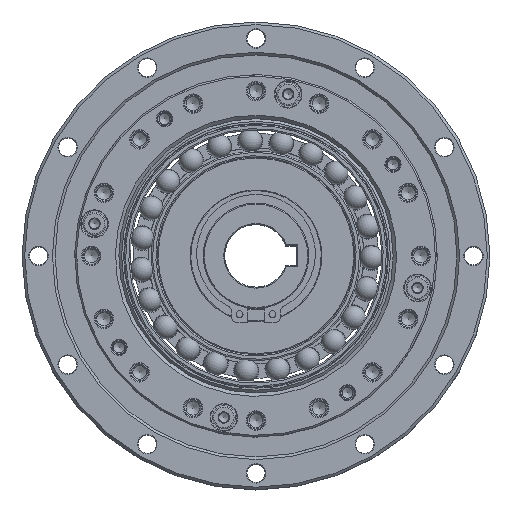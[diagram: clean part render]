
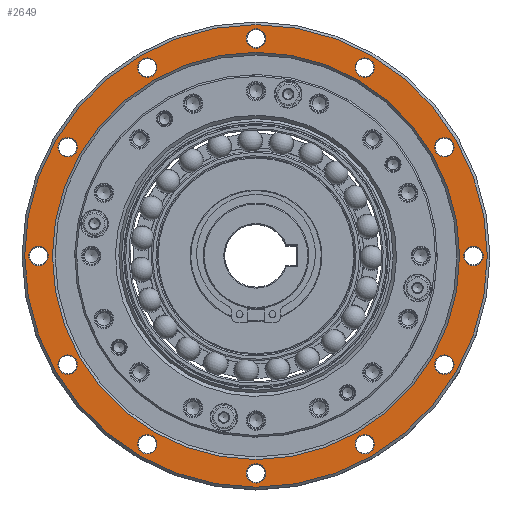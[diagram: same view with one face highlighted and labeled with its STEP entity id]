
A CAD part, top view. The second image highlights one B-rep face of the part: STEP entity #2649.
In plain terms, the highlighted planar face has unit normal (0, 0, 1).
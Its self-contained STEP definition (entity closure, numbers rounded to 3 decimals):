
#2649=ADVANCED_FACE('',(#3803,#3804,#3805,#3806,#3807,#3808,#3809,#3810,
#3811,#3812,#3813,#3814,#3815,#3816),#3348,.T.);
#3348=PLANE('',#12291);
#3803=FACE_BOUND('',#4844,.T.);
#3804=FACE_BOUND('',#4845,.T.);
#3805=FACE_BOUND('',#4846,.T.);
#3806=FACE_BOUND('',#4847,.T.);
#3807=FACE_BOUND('',#4848,.T.);
#3808=FACE_BOUND('',#4849,.T.);
#3809=FACE_BOUND('',#4850,.T.);
#3810=FACE_BOUND('',#4851,.T.);
#3811=FACE_BOUND('',#4852,.T.);
#3812=FACE_BOUND('',#4853,.T.);
#3813=FACE_BOUND('',#4854,.T.);
#3814=FACE_BOUND('',#4855,.T.);
#3815=FACE_BOUND('',#4856,.T.);
#3816=FACE_BOUND('',#4857,.T.);
#4844=EDGE_LOOP('',(#6172));
#4845=EDGE_LOOP('',(#6173));
#4846=EDGE_LOOP('',(#6174));
#4847=EDGE_LOOP('',(#6175));
#4848=EDGE_LOOP('',(#6176));
#4849=EDGE_LOOP('',(#6177));
#4850=EDGE_LOOP('',(#6178));
#4851=EDGE_LOOP('',(#6179));
#4852=EDGE_LOOP('',(#6180));
#4853=EDGE_LOOP('',(#6181));
#4854=EDGE_LOOP('',(#6182));
#4855=EDGE_LOOP('',(#6183));
#4856=EDGE_LOOP('',(#6184));
#4857=EDGE_LOOP('',(#6185));
#6172=ORIENTED_EDGE('',*,*,#9944,.T.);
#6173=ORIENTED_EDGE('',*,*,#9945,.T.);
#6174=ORIENTED_EDGE('',*,*,#9946,.T.);
#6175=ORIENTED_EDGE('',*,*,#9947,.T.);
#6176=ORIENTED_EDGE('',*,*,#9948,.T.);
#6177=ORIENTED_EDGE('',*,*,#9949,.T.);
#6178=ORIENTED_EDGE('',*,*,#9950,.T.);
#6179=ORIENTED_EDGE('',*,*,#9951,.T.);
#6180=ORIENTED_EDGE('',*,*,#9952,.T.);
#6181=ORIENTED_EDGE('',*,*,#9953,.T.);
#6182=ORIENTED_EDGE('',*,*,#9954,.T.);
#6183=ORIENTED_EDGE('',*,*,#9955,.T.);
#6184=ORIENTED_EDGE('',*,*,#9956,.T.);
#6185=ORIENTED_EDGE('',*,*,#9943,.F.);
#8849=VERTEX_POINT('',#17795);
#8850=VERTEX_POINT('',#17798);
#8851=VERTEX_POINT('',#17800);
#8852=VERTEX_POINT('',#17802);
#8853=VERTEX_POINT('',#17804);
#8854=VERTEX_POINT('',#17806);
#8855=VERTEX_POINT('',#17808);
#8856=VERTEX_POINT('',#17810);
#8857=VERTEX_POINT('',#17812);
#8858=VERTEX_POINT('',#17814);
#8859=VERTEX_POINT('',#17816);
#8860=VERTEX_POINT('',#17818);
#8861=VERTEX_POINT('',#17820);
#8862=VERTEX_POINT('',#17822);
#9943=EDGE_CURVE('',#8849,#8849,#11322,.T.);
#9944=EDGE_CURVE('',#8850,#8850,#11323,.T.);
#9945=EDGE_CURVE('',#8851,#8851,#11324,.T.);
#9946=EDGE_CURVE('',#8852,#8852,#11325,.T.);
#9947=EDGE_CURVE('',#8853,#8853,#11326,.T.);
#9948=EDGE_CURVE('',#8854,#8854,#11327,.T.);
#9949=EDGE_CURVE('',#8855,#8855,#11328,.T.);
#9950=EDGE_CURVE('',#8856,#8856,#11329,.T.);
#9951=EDGE_CURVE('',#8857,#8857,#11330,.T.);
#9952=EDGE_CURVE('',#8858,#8858,#11331,.T.);
#9953=EDGE_CURVE('',#8859,#8859,#11332,.T.);
#9954=EDGE_CURVE('',#8860,#8860,#11333,.T.);
#9955=EDGE_CURVE('',#8861,#8861,#11334,.T.);
#9956=EDGE_CURVE('',#8862,#8862,#11335,.T.);
#11322=CIRCLE('',#12276,70.2);
#11323=CIRCLE('',#12278,2.95);
#11324=CIRCLE('',#12279,2.95);
#11325=CIRCLE('',#12280,2.95);
#11326=CIRCLE('',#12281,2.95);
#11327=CIRCLE('',#12282,2.95);
#11328=CIRCLE('',#12283,2.95);
#11329=CIRCLE('',#12284,2.95);
#11330=CIRCLE('',#12285,2.95);
#11331=CIRCLE('',#12286,2.95);
#11332=CIRCLE('',#12287,2.95);
#11333=CIRCLE('',#12288,2.95);
#11334=CIRCLE('',#12289,2.95);
#11335=CIRCLE('',#12290,61.8);
#12276=AXIS2_PLACEMENT_3D('',#17794,#14154,#14155);
#12278=AXIS2_PLACEMENT_3D('',#17797,#14158,#14159);
#12279=AXIS2_PLACEMENT_3D('',#17799,#14160,#14161);
#12280=AXIS2_PLACEMENT_3D('',#17801,#14162,#14163);
#12281=AXIS2_PLACEMENT_3D('',#17803,#14164,#14165);
#12282=AXIS2_PLACEMENT_3D('',#17805,#14166,#14167);
#12283=AXIS2_PLACEMENT_3D('',#17807,#14168,#14169);
#12284=AXIS2_PLACEMENT_3D('',#17809,#14170,#14171);
#12285=AXIS2_PLACEMENT_3D('',#17811,#14172,#14173);
#12286=AXIS2_PLACEMENT_3D('',#17813,#14174,#14175);
#12287=AXIS2_PLACEMENT_3D('',#17815,#14176,#14177);
#12288=AXIS2_PLACEMENT_3D('',#17817,#14178,#14179);
#12289=AXIS2_PLACEMENT_3D('',#17819,#14180,#14181);
#12290=AXIS2_PLACEMENT_3D('',#17821,#14182,#14183);
#12291=AXIS2_PLACEMENT_3D('',#17823,#14184,#14185);
#14154=DIRECTION('',(0.,0.,-1.));
#14155=DIRECTION('',(-1.,0.,0.));
#14158=DIRECTION('',(0.,0.,-1.));
#14159=DIRECTION('',(1.,0.,0.));
#14160=DIRECTION('',(0.,0.,-1.));
#14161=DIRECTION('',(1.,0.,0.));
#14162=DIRECTION('',(0.,0.,-1.));
#14163=DIRECTION('',(1.,0.,0.));
#14164=DIRECTION('',(0.,0.,-1.));
#14165=DIRECTION('',(1.,0.,0.));
#14166=DIRECTION('',(0.,0.,-1.));
#14167=DIRECTION('',(1.,0.,0.));
#14168=DIRECTION('',(0.,0.,-1.));
#14169=DIRECTION('',(1.,0.,0.));
#14170=DIRECTION('',(0.,0.,-1.));
#14171=DIRECTION('',(1.,0.,0.));
#14172=DIRECTION('',(0.,0.,-1.));
#14173=DIRECTION('',(1.,0.,0.));
#14174=DIRECTION('',(0.,0.,-1.));
#14175=DIRECTION('',(1.,0.,0.));
#14176=DIRECTION('',(0.,0.,-1.));
#14177=DIRECTION('',(1.,0.,0.));
#14178=DIRECTION('',(0.,0.,-1.));
#14179=DIRECTION('',(1.,0.,0.));
#14180=DIRECTION('',(0.,0.,-1.));
#14181=DIRECTION('',(1.,0.,0.));
#14182=DIRECTION('',(0.,0.,-1.));
#14183=DIRECTION('',(-1.,0.,0.));
#14184=DIRECTION('',(0.,0.,1.));
#14185=DIRECTION('',(1.,0.,0.));
#17794=CARTESIAN_POINT('',(0.,0.,23.4));
#17795=CARTESIAN_POINT('',(-70.2,0.,23.4));
#17797=CARTESIAN_POINT('',(33.,-57.158,23.4));
#17798=CARTESIAN_POINT('',(35.95,-57.158,23.4));
#17799=CARTESIAN_POINT('',(57.158,-33.,23.4));
#17800=CARTESIAN_POINT('',(60.108,-33.,23.4));
#17801=CARTESIAN_POINT('',(66.,0.,23.4));
#17802=CARTESIAN_POINT('',(68.95,0.,23.4));
#17803=CARTESIAN_POINT('',(57.158,33.,23.4));
#17804=CARTESIAN_POINT('',(60.108,33.,23.4));
#17805=CARTESIAN_POINT('',(33.,57.158,23.4));
#17806=CARTESIAN_POINT('',(35.95,57.158,23.4));
#17807=CARTESIAN_POINT('',(0.,66.,23.4));
#17808=CARTESIAN_POINT('',(2.95,66.,23.4));
#17809=CARTESIAN_POINT('',(-33.,57.158,23.4));
#17810=CARTESIAN_POINT('',(-30.05,57.158,23.4));
#17811=CARTESIAN_POINT('',(-57.158,33.,23.4));
#17812=CARTESIAN_POINT('',(-54.208,33.,23.4));
#17813=CARTESIAN_POINT('',(-66.,0.,23.4));
#17814=CARTESIAN_POINT('',(-63.05,0.,23.4));
#17815=CARTESIAN_POINT('',(-57.158,-33.,23.4));
#17816=CARTESIAN_POINT('',(-54.208,-33.,23.4));
#17817=CARTESIAN_POINT('',(-33.,-57.158,23.4));
#17818=CARTESIAN_POINT('',(-30.05,-57.158,23.4));
#17819=CARTESIAN_POINT('',(0.,-66.,23.4));
#17820=CARTESIAN_POINT('',(2.95,-66.,23.4));
#17821=CARTESIAN_POINT('',(0.,0.,23.4));
#17822=CARTESIAN_POINT('',(-61.8,0.,23.4));
#17823=CARTESIAN_POINT('',(70.2,0.,23.4));
